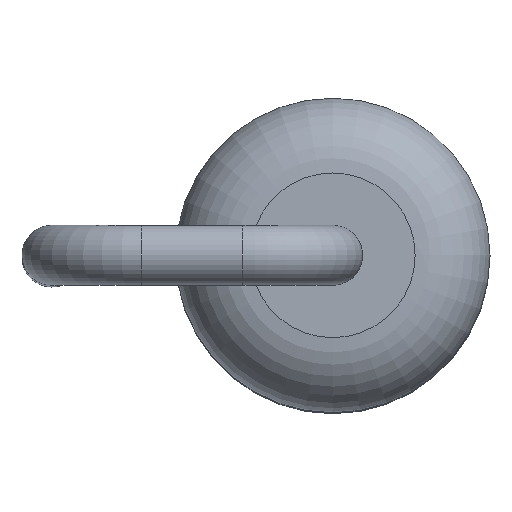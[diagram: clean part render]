
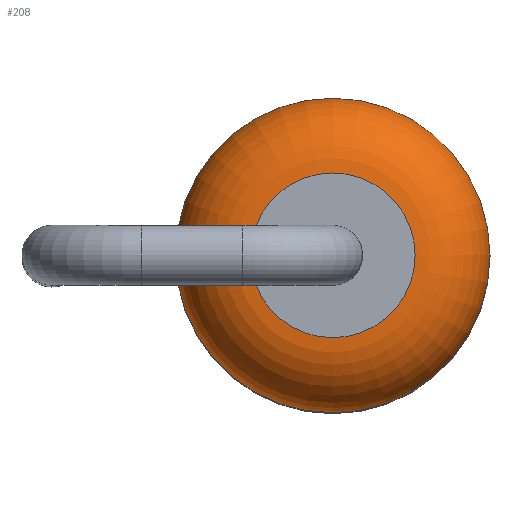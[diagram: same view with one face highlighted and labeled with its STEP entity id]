
A CAD part, top view. The second image highlights one B-rep face of the part: STEP entity #208.
In plain terms, the highlighted toroidal (fillet/blend) face has major radius 1.1 mm and minor radius 1 mm.
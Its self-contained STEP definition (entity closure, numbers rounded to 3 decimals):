
#208=ADVANCED_FACE('',(#377,#379),#381,.T.);
#377=FACE_OUTER_BOUND('',#378,.T.);
#378=EDGE_LOOP('',(#468));
#379=FACE_OUTER_BOUND('',#380,.T.);
#380=EDGE_LOOP('',(#469));
#381=TOROIDAL_SURFACE('',#382,1.1,1.);
#382=AXIS2_PLACEMENT_3D('',#383,#384,#385);
#383=CARTESIAN_POINT('',(0.,0.,4.1));
#384=DIRECTION('',(0.,0.,1.));
#385=DIRECTION('',(1.,0.,0.));
#468=ORIENTED_EDGE('',*,*,#493,.T.);
#469=ORIENTED_EDGE('',*,*,#494,.F.);
#493=EDGE_CURVE('',#521,#521,#522,.T.);
#494=EDGE_CURVE('',#523,#523,#524,.T.);
#521=VERTEX_POINT('',#587);
#522=CIRCLE('',#588,2.1);
#523=VERTEX_POINT('',#592);
#524=CIRCLE('',#593,1.1);
#587=CARTESIAN_POINT('',(2.1,0.,4.1));
#588=AXIS2_PLACEMENT_3D('',#589,#590,#591);
#589=CARTESIAN_POINT('',(0.,0.,4.1));
#590=DIRECTION('',(0.,0.,1.));
#591=DIRECTION('',(1.,0.,0.));
#592=CARTESIAN_POINT('',(1.1,0.,5.1));
#593=AXIS2_PLACEMENT_3D('',#594,#595,#596);
#594=CARTESIAN_POINT('',(0.,0.,5.1));
#595=DIRECTION('',(0.,0.,1.));
#596=DIRECTION('',(1.,0.,0.));
